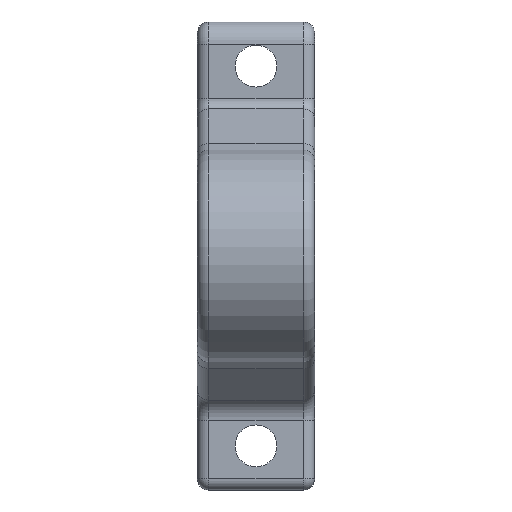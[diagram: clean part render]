
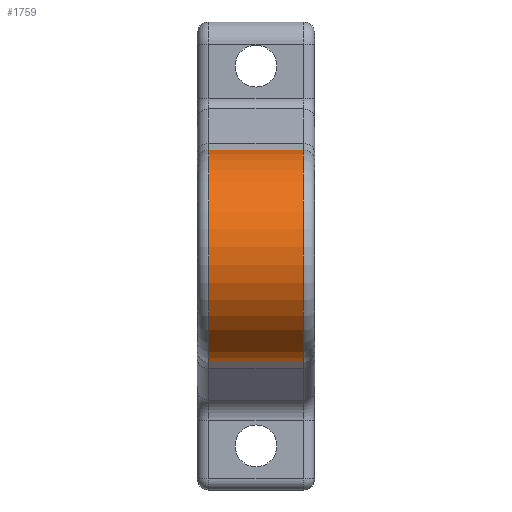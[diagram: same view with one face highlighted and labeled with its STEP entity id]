
A CAD part, front view. The second image highlights one B-rep face of the part: STEP entity #1759.
In plain terms, the highlighted cylindrical face has radius 19 mm (diameter 38 mm), a partial arc.
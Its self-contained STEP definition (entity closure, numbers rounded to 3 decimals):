
#1106=AXIS2_PLACEMENT_3D('Circle Axis2P3D',#1104,#1105,$) ;
#1739=AXIS2_PLACEMENT_3D('Cylinder Axis2P3D',#1736,#1737,#1738) ;
#1750=AXIS2_PLACEMENT_3D('Circle Axis2P3D',#1748,#1749,$) ;
#1077=CARTESIAN_POINT('Vertex',(8.5,-139.847,17.39)) ;
#1104=CARTESIAN_POINT('Axis2P3D Location',(8.5,-147.501,0.)) ;
#1108=CARTESIAN_POINT('Vertex',(8.5,-139.847,-17.39)) ;
#1721=CARTESIAN_POINT('Vertex',(-8.5,-139.847,17.39)) ;
#1724=CARTESIAN_POINT('Line Origine',(0.,-139.847,17.39)) ;
#1736=CARTESIAN_POINT('Axis2P3D Location',(0.,-147.501,0.)) ;
#1741=CARTESIAN_POINT('Line Origine',(0.,-139.847,-17.39)) ;
#1745=CARTESIAN_POINT('Vertex',(-8.5,-139.847,-17.39)) ;
#1748=CARTESIAN_POINT('Axis2P3D Location',(-8.5,-147.501,0.)) ;
#1105=DIRECTION('Axis2P3D Direction',(1.,0.,-0.)) ;
#1725=DIRECTION('Vector Direction',(1.,0.,0.)) ;
#1737=DIRECTION('Axis2P3D Direction',(1.,0.,0.)) ;
#1738=DIRECTION('Axis2P3D XDirection',(0.,0.403,0.915)) ;
#1742=DIRECTION('Vector Direction',(1.,0.,0.)) ;
#1749=DIRECTION('Axis2P3D Direction',(1.,0.,0.)) ;
#1726=VECTOR('Line Direction',#1725,1.) ;
#1743=VECTOR('Line Direction',#1742,1.) ;
#1754=ORIENTED_EDGE('',*,*,#1747,.T.) ;
#1755=ORIENTED_EDGE('',*,*,#1110,.F.) ;
#1756=ORIENTED_EDGE('',*,*,#1728,.F.) ;
#1757=ORIENTED_EDGE('',*,*,#1752,.T.) ;
#1759=ADVANCED_FACE('Connecting Rod',(#1758),#1740,.T.) ;
#1107=CIRCLE('generated circle',#1106,19.) ;
#1751=CIRCLE('generated circle',#1750,19.) ;
#1740=CYLINDRICAL_SURFACE('generated cylinder',#1739,19.) ;
#1110=EDGE_CURVE('',#1078,#1109,#1107,.T.) ;
#1728=EDGE_CURVE('',#1722,#1078,#1727,.T.) ;
#1747=EDGE_CURVE('',#1746,#1109,#1744,.T.) ;
#1752=EDGE_CURVE('',#1722,#1746,#1751,.T.) ;
#1753=EDGE_LOOP('',(#1754,#1755,#1756,#1757)) ;
#1758=FACE_OUTER_BOUND('',#1753,.T.) ;
#1727=LINE('Line',#1724,#1726) ;
#1744=LINE('Line',#1741,#1743) ;
#1078=VERTEX_POINT('',#1077) ;
#1109=VERTEX_POINT('',#1108) ;
#1722=VERTEX_POINT('',#1721) ;
#1746=VERTEX_POINT('',#1745) ;
